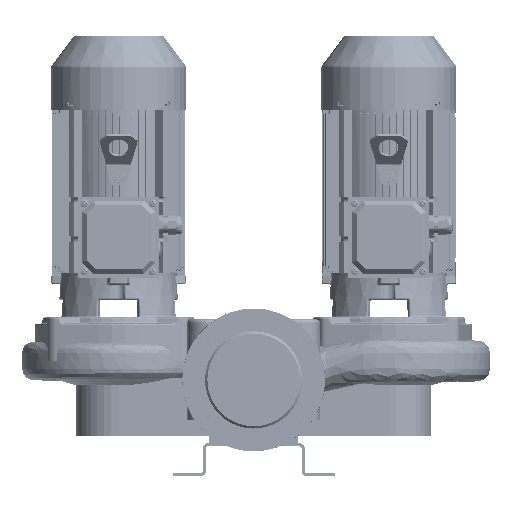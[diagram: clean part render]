
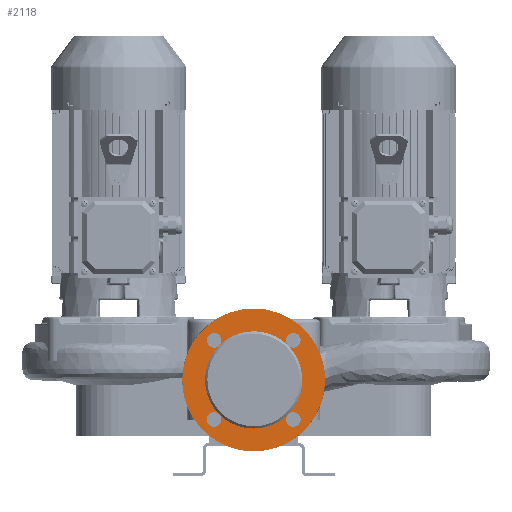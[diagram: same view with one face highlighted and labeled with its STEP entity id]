
A CAD part, front view. The second image highlights one B-rep face of the part: STEP entity #2118.
In plain terms, the highlighted planar face has unit normal (0, -1, 0) as drawn and (0, 1, 0) by its records, which use the part's own axes.
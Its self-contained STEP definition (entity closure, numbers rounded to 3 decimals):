
#2118=ADVANCED_FACE('',(#3999,#4000),#4001,.T.);
#2250=EDGE_CURVE('',#4224,#4225,#4226,.T.);
#2252=EDGE_CURVE('',#4228,#4224,#4229,.T.);
#2254=EDGE_CURVE('',#4231,#4228,#4232,.T.);
#2258=EDGE_CURVE('',#4238,#4239,#4240,.T.);
#2262=EDGE_CURVE('',#4246,#4247,#4248,.T.);
#2266=EDGE_CURVE('',#4254,#4255,#4256,.T.);
#2270=EDGE_CURVE('',#4262,#4263,#4264,.T.);
#2274=EDGE_CURVE('',#4270,#4271,#4272,.T.);
#2400=EDGE_CURVE('',#4271,#4270,#4464,.T.);
#2404=EDGE_CURVE('',#4228,#4262,#4468,.T.);
#2406=EDGE_CURVE('',#4263,#4228,#4470,.T.);
#2408=EDGE_CURVE('',#4224,#4254,#4472,.T.);
#2410=EDGE_CURVE('',#4255,#4224,#4474,.T.);
#2412=EDGE_CURVE('',#4476,#4246,#4477,.T.);
#2414=EDGE_CURVE('',#4247,#4476,#4479,.T.);
#2416=EDGE_CURVE('',#4481,#4238,#4482,.T.);
#2418=EDGE_CURVE('',#4239,#4481,#4484,.T.);
#2420=EDGE_CURVE('',#4225,#4476,#4486,.T.);
#2422=EDGE_CURVE('',#4476,#4481,#4488,.T.);
#2424=EDGE_CURVE('',#4481,#4231,#4490,.T.);
#3999=FACE_OUTER_BOUND('',#10325,.T.);
#4000=FACE_BOUND('',#10326,.T.);
#4001=PLANE('',#10327);
#4224=VERTEX_POINT('',#11232);
#4225=VERTEX_POINT('',#11233);
#4226=CIRCLE('',#11234,63.0);
#4228=VERTEX_POINT('',#11237);
#4229=CIRCLE('',#11238,63.0);
#4231=VERTEX_POINT('',#11241);
#4232=CIRCLE('',#11242,63.0);
#4238=VERTEX_POINT('',#11250);
#4239=VERTEX_POINT('',#11251);
#4240=CIRCLE('',#11252,9.5);
#4246=VERTEX_POINT('',#11260);
#4247=VERTEX_POINT('',#11261);
#4248=CIRCLE('',#11262,9.5);
#4254=VERTEX_POINT('',#11270);
#4255=VERTEX_POINT('',#11271);
#4256=CIRCLE('',#11272,9.5);
#4262=VERTEX_POINT('',#11280);
#4263=VERTEX_POINT('',#11281);
#4264=CIRCLE('',#11282,9.5);
#4270=VERTEX_POINT('',#11290);
#4271=VERTEX_POINT('',#11291);
#4272=CIRCLE('',#11292,92.5);
#4464=CIRCLE('',#11616,92.5);
#4468=CIRCLE('',#11622,9.5);
#4470=CIRCLE('',#11625,9.5);
#4472=CIRCLE('',#11628,9.5);
#4474=CIRCLE('',#11631,9.5);
#4476=VERTEX_POINT('',#11634);
#4477=CIRCLE('',#11635,9.5);
#4479=CIRCLE('',#11638,9.5);
#4481=VERTEX_POINT('',#11641);
#4482=CIRCLE('',#11642,9.5);
#4484=CIRCLE('',#11645,9.5);
#4486=CIRCLE('',#11648,63.0);
#4488=CIRCLE('',#11651,63.0);
#4490=CIRCLE('',#11654,63.0);
#10325=EDGE_LOOP('',(#19304,#19305));
#10326=EDGE_LOOP('',(#19306,#19307,#19308,#19309,#19310,#19311,#19312,#19313,#19314,#19315,#19316,#19317,#19318,#19319,#19320,#19321,#19322,#19323));
#10327=AXIS2_PLACEMENT_3D('',#19324,#19325,#19326);
#11232=CARTESIAN_POINT('',(44.548,217.,20.048));
#11233=CARTESIAN_POINT('',(0.,217.0,38.5));
#11234=AXIS2_PLACEMENT_3D('',#19806,#19807,#19808);
#11237=CARTESIAN_POINT('',(44.548,217.0,-69.048));
#11238=AXIS2_PLACEMENT_3D('',#19809,#19810,#19811);
#11241=CARTESIAN_POINT('',(0.,217.0,-87.5));
#11242=AXIS2_PLACEMENT_3D('',#19812,#19813,#19814);
#11250=CARTESIAN_POINT('',(-56.624,217.0,-67.921));
#11251=CARTESIAN_POINT('',(-45.906,217.0,-83.609));
#11252=AXIS2_PLACEMENT_3D('',#19818,#19819,#19820);
#11260=CARTESIAN_POINT('',(-43.421,217.,32.124));
#11261=CARTESIAN_POINT('',(-59.109,217.,21.406));
#11262=AXIS2_PLACEMENT_3D('',#19824,#19825,#19826);
#11270=CARTESIAN_POINT('',(56.624,217.,18.921));
#11271=CARTESIAN_POINT('',(45.906,217.,34.609));
#11272=AXIS2_PLACEMENT_3D('',#19830,#19831,#19832);
#11280=CARTESIAN_POINT('',(43.421,217.0,-81.124));
#11281=CARTESIAN_POINT('',(59.109,217.0,-70.406));
#11282=AXIS2_PLACEMENT_3D('',#19836,#19837,#19838);
#11290=CARTESIAN_POINT('',(0.,217.0,-117.0));
#11291=CARTESIAN_POINT('',(0.,217.0,68.0));
#11292=AXIS2_PLACEMENT_3D('',#19842,#19843,#19844);
#11616=AXIS2_PLACEMENT_3D('',#19978,#19979,#19980);
#11622=AXIS2_PLACEMENT_3D('',#19984,#19985,#19986);
#11625=AXIS2_PLACEMENT_3D('',#19987,#19988,#19989);
#11628=AXIS2_PLACEMENT_3D('',#19990,#19991,#19992);
#11631=AXIS2_PLACEMENT_3D('',#19993,#19994,#19995);
#11634=CARTESIAN_POINT('',(-44.548,217.,20.048));
#11635=AXIS2_PLACEMENT_3D('',#19996,#19997,#19998);
#11638=AXIS2_PLACEMENT_3D('',#19999,#20000,#20001);
#11641=CARTESIAN_POINT('',(-44.548,217.0,-69.048));
#11642=AXIS2_PLACEMENT_3D('',#20002,#20003,#20004);
#11645=AXIS2_PLACEMENT_3D('',#20005,#20006,#20007);
#11648=AXIS2_PLACEMENT_3D('',#20008,#20009,#20010);
#11651=AXIS2_PLACEMENT_3D('',#20011,#20012,#20013);
#11654=AXIS2_PLACEMENT_3D('',#20014,#20015,#20016);
#19304=ORIENTED_EDGE('',*,*,#2400,.F.);
#19305=ORIENTED_EDGE('',*,*,#2274,.F.);
#19306=ORIENTED_EDGE('',*,*,#2250,.T.);
#19307=ORIENTED_EDGE('',*,*,#2420,.T.);
#19308=ORIENTED_EDGE('',*,*,#2412,.T.);
#19309=ORIENTED_EDGE('',*,*,#2262,.T.);
#19310=ORIENTED_EDGE('',*,*,#2414,.T.);
#19311=ORIENTED_EDGE('',*,*,#2422,.T.);
#19312=ORIENTED_EDGE('',*,*,#2416,.T.);
#19313=ORIENTED_EDGE('',*,*,#2258,.T.);
#19314=ORIENTED_EDGE('',*,*,#2418,.T.);
#19315=ORIENTED_EDGE('',*,*,#2424,.T.);
#19316=ORIENTED_EDGE('',*,*,#2254,.T.);
#19317=ORIENTED_EDGE('',*,*,#2404,.T.);
#19318=ORIENTED_EDGE('',*,*,#2270,.T.);
#19319=ORIENTED_EDGE('',*,*,#2406,.T.);
#19320=ORIENTED_EDGE('',*,*,#2252,.T.);
#19321=ORIENTED_EDGE('',*,*,#2408,.T.);
#19322=ORIENTED_EDGE('',*,*,#2266,.T.);
#19323=ORIENTED_EDGE('',*,*,#2410,.T.);
#19324=CARTESIAN_POINT('',(0.,217.0,-102.25));
#19325=DIRECTION('',(0.0,1.0,0.0));
#19326=DIRECTION('',(0.0,0.0,1.0));
#19806=CARTESIAN_POINT('',(0.,217.0,-24.5));
#19807=DIRECTION('',(0.0,-1.0,0.0));
#19808=DIRECTION('',(0.0,0.0,-1.0));
#19809=CARTESIAN_POINT('',(0.,217.0,-24.5));
#19810=DIRECTION('',(0.0,-1.0,0.0));
#19811=DIRECTION('',(0.0,0.0,-1.0));
#19812=CARTESIAN_POINT('',(0.,217.0,-24.5));
#19813=DIRECTION('',(0.0,-1.0,0.0));
#19814=DIRECTION('',(0.0,0.0,-1.0));
#19818=CARTESIAN_POINT('',(-51.265,217.0,-75.765));
#19819=DIRECTION('',(0.0,-1.0,0.0));
#19820=DIRECTION('',(-0.564,0.0,0.826));
#19824=CARTESIAN_POINT('',(-51.265,217.,26.765));
#19825=DIRECTION('',(0.0,-1.0,0.0));
#19826=DIRECTION('',(0.826,0.0,0.564));
#19830=CARTESIAN_POINT('',(51.265,217.,26.765));
#19831=DIRECTION('',(0.0,-1.0,0.0));
#19832=DIRECTION('',(0.564,0.0,-0.826));
#19836=CARTESIAN_POINT('',(51.265,217.0,-75.765));
#19837=DIRECTION('',(0.0,-1.0,-0.0));
#19838=DIRECTION('',(-0.826,0.0,-0.564));
#19842=CARTESIAN_POINT('',(0.,217.0,-24.5));
#19843=DIRECTION('',(0.0,-1.0,0.0));
#19844=DIRECTION('',(0.0,0.0,-1.0));
#19978=CARTESIAN_POINT('',(0.,217.0,-24.5));
#19979=DIRECTION('',(0.0,-1.0,0.0));
#19980=DIRECTION('',(0.0,0.0,-1.0));
#19984=CARTESIAN_POINT('',(51.265,217.0,-75.765));
#19985=DIRECTION('',(0.0,-1.0,-0.0));
#19986=DIRECTION('',(-0.826,0.0,-0.564));
#19987=CARTESIAN_POINT('',(51.265,217.0,-75.765));
#19988=DIRECTION('',(0.0,-1.0,-0.0));
#19989=DIRECTION('',(-0.826,0.0,-0.564));
#19990=CARTESIAN_POINT('',(51.265,217.,26.765));
#19991=DIRECTION('',(0.0,-1.0,0.0));
#19992=DIRECTION('',(0.564,0.0,-0.826));
#19993=CARTESIAN_POINT('',(51.265,217.,26.765));
#19994=DIRECTION('',(0.0,-1.0,0.0));
#19995=DIRECTION('',(0.564,0.0,-0.826));
#19996=CARTESIAN_POINT('',(-51.265,217.,26.765));
#19997=DIRECTION('',(0.0,-1.0,0.0));
#19998=DIRECTION('',(0.826,0.0,0.564));
#19999=CARTESIAN_POINT('',(-51.265,217.,26.765));
#20000=DIRECTION('',(0.0,-1.0,0.0));
#20001=DIRECTION('',(0.826,0.0,0.564));
#20002=CARTESIAN_POINT('',(-51.265,217.0,-75.765));
#20003=DIRECTION('',(0.0,-1.0,0.0));
#20004=DIRECTION('',(-0.564,0.0,0.826));
#20005=CARTESIAN_POINT('',(-51.265,217.0,-75.765));
#20006=DIRECTION('',(0.0,-1.0,0.0));
#20007=DIRECTION('',(-0.564,0.0,0.826));
#20008=CARTESIAN_POINT('',(0.,217.0,-24.5));
#20009=DIRECTION('',(0.0,-1.0,0.0));
#20010=DIRECTION('',(0.0,0.0,-1.0));
#20011=CARTESIAN_POINT('',(0.,217.0,-24.5));
#20012=DIRECTION('',(0.0,-1.0,0.0));
#20013=DIRECTION('',(0.0,0.0,-1.0));
#20014=CARTESIAN_POINT('',(0.,217.0,-24.5));
#20015=DIRECTION('',(0.0,-1.0,0.0));
#20016=DIRECTION('',(0.0,0.0,-1.0));
